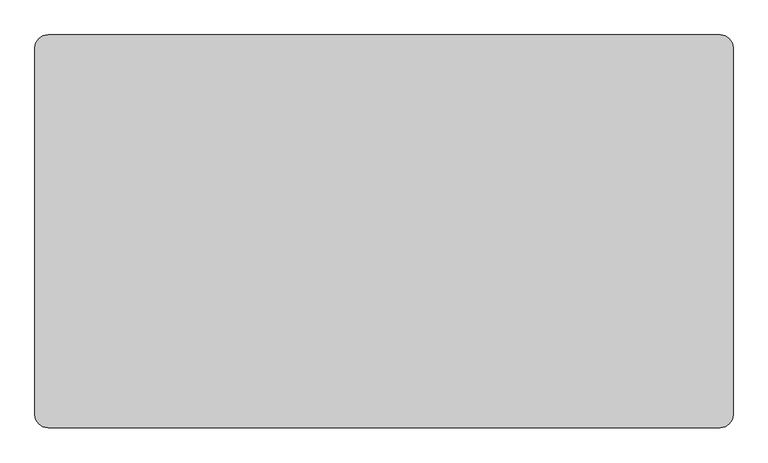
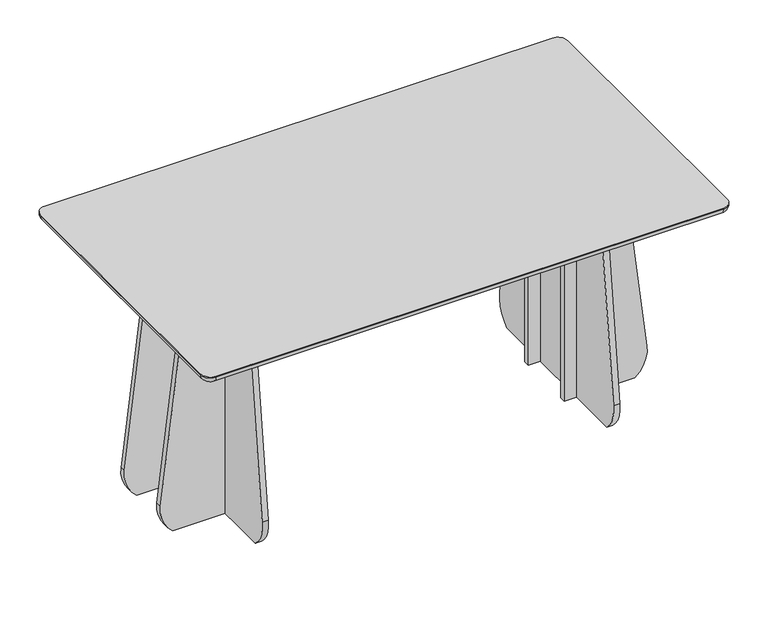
"""IFC4 building model written with IfcOpenShell, lengths in millimetres: furniture geometry, Lundbergs Möbler - Funghi Largo - Table - Rectangular - 160x90 - H73 : Lundbergs Möbler - Funghi Largo - Table - Rectangular - 160x90 - H73."""

from ifc_helpers import new_model, si_unit, point, frame, frame_2d, origin, place, context, project, spatial, polyline, circle_curve, ellipse_curve, trimmed, segment, composite_curve, outline, extrude, source, transform, mapped, element, save
from ifc_brep_helpers import plane_surface, cylinder_surface, revolved_surface, advanced_brep


def furniture_014bb074(model_context):
    return source(origin(), model_context, "Body", "SolidModel", [
        advanced_brep(
        [(-780.0, 420.0, 706.0), (-800.0, 420.0, 726.0), (-770.0, 450.0, 726.0), (-770.0, 430.0, 706.0), (-780.0, -420.0, 706.0), (-800.0, -420.0, 726.0), (-770.0, -430.0, 706.0), (-770.0, -450.0, 726.0), (770.0, -430.0, 706.0), (770.0, -450.0, 726.0), (780.0, -420.0, 706.0), (800.0, -420.0, 726.0), (780.0, 420.0, 706.0), (800.0, 420.0, 726.0), (770.0, 430.0, 706.0), (770.0, 450.0, 726.0), (770.0, 450.0, 730.0), (-770.0, 450.0, 730.0), (-800.0, 420.0, 730.0), (-800.0, -420.0, 730.0), (-770.0, -450.0, 730.0), (770.0, -450.0, 730.0), (800.0, -420.0, 730.0), (800.0, 420.0, 730.0)],
        [
            (0, 1, circle_curve(frame((-780.0, 420.0, 726.0), z_axis=(0.0, 1.0, 0.0), x_axis=(1.0, 0.0, 0.0)), 20.0)),
            (1, 2, circle_curve(frame((-770.0, 420.0, 726.0), z_axis=(0.0, 0.0, -1.0), x_axis=(0.0, 1.0, 0.0)), 30.0)),
            (2, 3, circle_curve(frame((-770.0, 430.0, 726.0), z_axis=(-1.0, 0.0, 0.0), x_axis=(0.0, -1.0, 0.0)), 20.0)),
            (3, 0, circle_curve(frame((-770.0, 420.0, 706.0), z_axis=(0.0, 0.0, 1.0), x_axis=(0.0, 1.0, 0.0)), 10.0)),
            (0, 4),
            (4, 5, circle_curve(frame((-780.0, -420.0, 726.0), z_axis=(0.0, 1.0, 0.0), x_axis=(1.0, 0.0, 0.0)), 20.0)),
            (5, 1),
            (4, 6, circle_curve(frame((-770.0, -420.0, 706.0), z_axis=(0.0, 0.0, 1.0), x_axis=(-1.0, 0.0, 0.0)), 10.0)),
            (6, 7, circle_curve(frame((-770.0, -430.0, 726.0), z_axis=(-1.0, 0.0, 0.0), x_axis=(0.0, 1.0, 0.0)), 20.0)),
            (7, 5, circle_curve(frame((-770.0, -420.0, 726.0), z_axis=(0.0, 0.0, -1.0), x_axis=(-1.0, 0.0, 0.0)), 30.0)),
            (6, 8),
            (8, 9, circle_curve(frame((770.0, -430.0, 726.0), z_axis=(-1.0, 0.0, 0.0), x_axis=(0.0, 1.0, 0.0)), 20.0)),
            (9, 7),
            (8, 10, circle_curve(frame((770.0, -420.0, 706.0), z_axis=(0.0, 0.0, 1.0), x_axis=(0.0, -1.0, 0.0)), 10.0)),
            (10, 11, circle_curve(frame((780.0, -420.0, 726.0), z_axis=(0.0, -1.0, 0.0), x_axis=(-1.0, 0.0, 0.0)), 20.0)),
            (11, 9, circle_curve(frame((770.0, -420.0, 726.0), z_axis=(0.0, 0.0, -1.0), x_axis=(0.0, -1.0, 0.0)), 30.0)),
            (10, 12),
            (12, 13, circle_curve(frame((780.0, 420.0, 726.0), z_axis=(0.0, -1.0, 0.0), x_axis=(-1.0, 0.0, 0.0)), 20.0)),
            (13, 11),
            (12, 14, circle_curve(frame((770.0, 420.0, 706.0), z_axis=(0.0, 0.0, 1.0), x_axis=(1.0, 0.0, 0.0)), 10.0)),
            (14, 15, circle_curve(frame((770.0, 430.0, 726.0), z_axis=(1.0, 0.0, 0.0), x_axis=(0.0, -1.0, 0.0)), 20.0)),
            (15, 13, circle_curve(frame((770.0, 420.0, 726.0), z_axis=(0.0, 0.0, -1.0), x_axis=(1.0, 0.0, 0.0)), 30.0)),
            (2, 15),
            (14, 3),
            (16, 17),
            (17, 18, circle_curve(frame((-770.0, 420.0, 730.0), z_axis=(0.0, 0.0, 1.0), x_axis=(0.0, 1.0, 0.0)), 30.0)),
            (18, 19),
            (19, 20, circle_curve(frame((-770.0, -420.0, 730.0), z_axis=(0.0, 0.0, 1.0), x_axis=(0.0, 1.0, 0.0)), 30.0)),
            (20, 21),
            (21, 22, circle_curve(frame((770.0, -420.0, 730.0), z_axis=(0.0, 0.0, 1.0), x_axis=(0.0, 1.0, 0.0)), 30.0)),
            (22, 23),
            (23, 16, circle_curve(frame((770.0, 420.0, 730.0), z_axis=(0.0, 0.0, 1.0), x_axis=(0.0, 1.0, 0.0)), 30.0)),
            (16, 15),
            (2, 17),
            (1, 18),
            (5, 19),
            (7, 20),
            (9, 21),
            (11, 22),
            (13, 23),
        ],
        [
            revolved_surface(trimmed(ellipse_curve(frame((-770.0, 430.0, 726.0), z_axis=(1.0, 0.0, 0.0), x_axis=(0.0, -1.0, 0.0)), 20.0, 20.0), [point((-770.0, 430.0, 706.0))], [point((-770.0, 450.0, 726.0))], True, "CARTESIAN"), (-770.0, 420.0, 0.0), (0.0, 0.0, 1.0)),
            cylinder_surface(frame((-780.0, 420.0, 726.0), z_axis=(0.0, -1.0, 0.0), x_axis=(1.0, 0.0, 0.0)), 20.0),
            revolved_surface(trimmed(ellipse_curve(frame((-780.0, -420.0, 726.0), z_axis=(0.0, 1.0, 0.0), x_axis=(1.0, 0.0, 0.0)), 20.0, 20.0), [point((-780.0, -420.0, 706.0))], [point((-800.0, -420.0, 726.0))], True, "CARTESIAN"), (-770.0, -420.0, 0.0), (0.0, 0.0, 1.0)),
            cylinder_surface(frame((-770.0, -430.0, 726.0), z_axis=(1.0, 0.0, 0.0), x_axis=(0.0, 1.0, 0.0)), 20.0),
            revolved_surface(trimmed(ellipse_curve(frame((770.0, -430.0, 726.0), z_axis=(-1.0, 0.0, 0.0), x_axis=(0.0, 1.0, 0.0)), 20.0, 20.0), [point((770.0, -430.0, 706.0))], [point((770.0, -450.0, 726.0))], True, "CARTESIAN"), (770.0, -420.0, 0.0), (0.0, 0.0, 1.0)),
            cylinder_surface(frame((780.0, -420.0, 726.0), z_axis=(0.0, 1.0, 0.0), x_axis=(-1.0, 0.0, 0.0)), 20.0),
            revolved_surface(trimmed(ellipse_curve(frame((780.0, 420.0, 726.0), z_axis=(0.0, -1.0, 0.0), x_axis=(-1.0, 0.0, 0.0)), 20.0, 20.0), [point((780.0, 420.0, 706.0))], [point((800.0, 420.0, 726.0))], True, "CARTESIAN"), (770.0, 420.0, 0.0), (0.0, 0.0, 1.0)),
            cylinder_surface(frame((770.0, 430.0, 726.0), z_axis=(-1.0, 0.0, 0.0), x_axis=(0.0, -1.0, 0.0)), 20.0),
            plane_surface(frame((-770.0, 450.0, 730.0), z_axis=(0.0, 0.0, 1.0), x_axis=(-1.0, 0.0, 0.0))),
            plane_surface(frame((-770.0, 450.0, 706.0), z_axis=(0.0, 0.0, -1.0), x_axis=(1.0, 0.0, 0.0))),
            plane_surface(frame((770.0, 450.0, 730.0), z_axis=(0.0, 1.0, 0.0), x_axis=(0.0, 0.0, -1.0))),
            cylinder_surface(frame((-770.0, 420.0, 706.0), z_axis=(0.0, 0.0, 1.0), x_axis=(0.0, 1.0, 0.0)), 30.0),
            plane_surface(frame((-800.0, 420.0, 730.0), z_axis=(-1.0, 0.0, 0.0), x_axis=(0.0, 0.0, -1.0))),
            cylinder_surface(frame((-770.0, -420.0, 706.0), z_axis=(0.0, 0.0, 1.0), x_axis=(0.0, 1.0, 0.0)), 30.0),
            plane_surface(frame((-770.0, -450.0, 730.0), z_axis=(0.0, -1.0, 0.0), x_axis=(0.0, 0.0, -1.0))),
            cylinder_surface(frame((770.0, -420.0, 706.0), z_axis=(0.0, 0.0, 1.0), x_axis=(0.0, 1.0, 0.0)), 30.0),
            plane_surface(frame((800.0, -420.0, 730.0), z_axis=(1.0, 0.0, 0.0), x_axis=(0.0, 0.0, -1.0))),
            cylinder_surface(frame((770.0, 420.0, 706.0), z_axis=(0.0, 0.0, 1.0), x_axis=(0.0, 1.0, 0.0)), 30.0),
        ],
        [
            (0, [[1, 2, 3, 4]]),
            (1, [[-1, 5, 6, 7]]),
            (2, [[-6, 8, 9, 10]]),
            (3, [[-9, 11, 12, 13]]),
            (4, [[-12, 14, 15, 16]]),
            (5, [[-15, 17, 18, 19]]),
            (6, [[-18, 20, 21, 22]]),
            (7, [[-3, 23, -21, 24]]),
            (8, [[25, 26, 27, 28, 29, 30, 31, 32]]),
            (9, [[-4, -24, -20, -17, -14, -11, -8, -5]]),
            (10, [[-25, 33, -23, 34]]),
            (11, [[-26, -34, -2, 35]]),
            (12, [[-27, -35, -7, 36]]),
            (13, [[-28, -36, -10, 37]]),
            (14, [[-29, -37, -13, 38]]),
            (15, [[-30, -38, -16, 39]]),
            (16, [[-31, -39, -19, 40]]),
            (17, [[-32, -40, -22, -33]]),
        ],
    ),
        extrude(outline(composite_curve([segment(polyline([(581.25, 180.0), (617.25, 180.0)]), True, "CONTINUOUS"), segment(trimmed(circle_curve(frame_2d((617.25, 178.0)), 2.0), [point((617.25, 180.0))], [point((619.25, 178.0))], False, "CARTESIAN"), True, "CONTINUOUS"), segment(polyline([(619.25, 178.0), (619.25, -178.0)]), True, "CONTINUOUS"), segment(trimmed(circle_curve(frame_2d((617.25, -178.0)), 2.0), [point((619.25, -178.0))], [point((617.25, -180.0))], False, "CARTESIAN"), True, "CONTINUOUS"), segment(polyline([(617.25, -180.0), (581.25, -180.0)]), True, "CONTINUOUS"), segment(trimmed(circle_curve(frame_2d((581.25, -178.0)), 2.0), [point((581.25, -180.0))], [point((579.25, -178.0))], False, "CARTESIAN"), True, "CONTINUOUS"), segment(polyline([(579.25, -178.0), (579.25, 178.0)]), True, "CONTINUOUS"), segment(trimmed(circle_curve(frame_2d((581.25, 178.0)), 2.0), [point((579.25, 178.0))], [point((581.25, 180.0))], False, "CARTESIAN"), True, "CONTINUOUS")], self_intersect=False)), frame((0.0, 0.0, 686.0), z_axis=(0.0, 0.0, 1.0), x_axis=(1.0, 0.0, 0.0)), (0.0, 0.0, 1.0), 20.0),
        extrude(outline(composite_curve([segment(polyline([(461.25, 180.0), (551.25, 180.0)]), True, "CONTINUOUS"), segment(trimmed(circle_curve(frame_2d((551.25, 176.5)), 3.5), [point((551.25, 180.0))], [point((554.75, 176.5))], False, "CARTESIAN"), True, "CONTINUOUS"), segment(polyline([(554.75, 176.5), (554.75, 143.5)]), True, "CONTINUOUS"), segment(trimmed(circle_curve(frame_2d((551.25, 143.5)), 3.5), [point((554.75, 143.5))], [point((551.25, 140.0))], False, "CARTESIAN"), True, "CONTINUOUS"), segment(polyline([(551.25, 140.0), (461.25, 140.0)]), True, "CONTINUOUS"), segment(trimmed(circle_curve(frame_2d((461.25, 143.5)), 3.5), [point((461.25, 140.0))], [point((457.75, 143.5))], False, "CARTESIAN"), True, "CONTINUOUS"), segment(polyline([(457.75, 143.5), (457.75, 176.5)]), True, "CONTINUOUS"), segment(trimmed(circle_curve(frame_2d((461.25, 176.5)), 3.5), [point((457.75, 176.5))], [point((461.25, 180.0))], False, "CARTESIAN"), True, "CONTINUOUS")], self_intersect=False)), frame((0.0, 0.0, 686.0), z_axis=(0.0, 0.0, 1.0), x_axis=(1.0, 0.0, 0.0)), (0.0, 0.0, 1.0), 20.0),
        extrude(outline(composite_curve([segment(polyline([(461.25, -140.0), (551.25, -140.0)]), True, "CONTINUOUS"), segment(trimmed(circle_curve(frame_2d((551.25, -143.5)), 3.5), [point((551.25, -140.0))], [point((554.75, -143.5))], False, "CARTESIAN"), True, "CONTINUOUS"), segment(polyline([(554.75, -143.5), (554.75, -176.5)]), True, "CONTINUOUS"), segment(trimmed(circle_curve(frame_2d((551.25, -176.5)), 3.5), [point((554.75, -176.5))], [point((551.25, -180.0))], False, "CARTESIAN"), True, "CONTINUOUS"), segment(polyline([(551.25, -180.0), (461.25, -180.0)]), True, "CONTINUOUS"), segment(trimmed(circle_curve(frame_2d((461.25, -176.5)), 3.5), [point((461.25, -180.0))], [point((457.75, -176.5))], False, "CARTESIAN"), True, "CONTINUOUS"), segment(polyline([(457.75, -176.5), (457.75, -143.5)]), True, "CONTINUOUS"), segment(trimmed(circle_curve(frame_2d((461.25, -143.5)), 3.5), [point((457.75, -143.5))], [point((461.25, -140.0))], False, "CARTESIAN"), True, "CONTINUOUS")], self_intersect=False)), frame((0.0, 0.0, 686.0), z_axis=(0.0, 0.0, 1.0), x_axis=(1.0, 0.0, 0.0)), (0.0, 0.0, 1.0), 20.0),
        extrude(outline(composite_curve([segment(trimmed(circle_curve(frame_2d((200.0, 78.0350603)), 100.0), [point((299.2807726, 90.0070355))], [point((262.5342255, 0.0))], False, "CARTESIAN"), True, "CONTINUOUS"), segment(polyline([(262.5342255, 0.0), (-262.5342255, 0.0)]), True, "CONTINUOUS"), segment(trimmed(circle_curve(frame_2d((-200.0, 78.0350603)), 100.0), [point((-262.5342255, 0.0))], [point((-299.2807726, 90.0070355))], False, "CARTESIAN"), True, "CONTINUOUS"), segment(polyline([(-299.2807726, 90.0070355), (-224.9955121, 706.0372169), (224.9955121, 706.0372169), (299.2807726, 90.0070355)]), True, "CONTINUOUS")], self_intersect=False)), frame((524.25, 0.0, 0.0), z_axis=(1.0, 0.0, 0.0), x_axis=(0.0, 1.0, 0.0)), (0.0, 0.0, 1.0), 18.5),
        extrude(outline(composite_curve([segment(polyline([(90.0070355, 738.5307726), (706.0372169, 664.2455121), (706.0372169, 487.25), (0.0, 487.25), (0.0, 701.7842255)]), True, "CONTINUOUS"), segment(trimmed(circle_curve(frame_2d((78.0350603, 639.25)), 100.0), [point((0.0, 701.7842255))], [point((90.0070355, 738.5307726))], False, "CARTESIAN"), True, "CONTINUOUS")], self_intersect=False)), frame((0.0, 85.5, 0.0), z_axis=(0.0, 1.0, 0.0), x_axis=(0.0, 0.0, 1.0)), (0.0, 0.0, 1.0), 18.0),
        extrude(outline(composite_curve([segment(polyline([(90.0070355, 738.5307726), (706.0372169, 664.2455121), (706.0372169, 487.25), (0.0, 487.25), (0.0, 701.7842255)]), True, "CONTINUOUS"), segment(trimmed(circle_curve(frame_2d((78.0350603, 639.25)), 100.0), [point((0.0, 701.7842255))], [point((90.0070355, 738.5307726))], False, "CARTESIAN"), True, "CONTINUOUS")], self_intersect=False)), frame((0.0, -103.5, 0.0), z_axis=(0.0, 1.0, 0.0), x_axis=(0.0, 0.0, 1.0)), (0.0, 0.0, 1.0), 18.0),
        extrude(outline(composite_curve([segment(trimmed(circle_curve(frame_2d((-581.25, 178.0)), 2.0), [point((-581.25, 180.0))], [point((-579.25, 178.0))], False, "CARTESIAN"), True, "CONTINUOUS"), segment(polyline([(-579.25, 178.0), (-579.25, -178.0)]), True, "CONTINUOUS"), segment(trimmed(circle_curve(frame_2d((-581.25, -178.0)), 2.0), [point((-579.25, -178.0))], [point((-581.25, -180.0))], False, "CARTESIAN"), True, "CONTINUOUS"), segment(polyline([(-581.25, -180.0), (-617.25, -180.0)]), True, "CONTINUOUS"), segment(trimmed(circle_curve(frame_2d((-617.25, -178.0)), 2.0), [point((-617.25, -180.0))], [point((-619.25, -178.0))], False, "CARTESIAN"), True, "CONTINUOUS"), segment(polyline([(-619.25, -178.0), (-619.25, 178.0)]), True, "CONTINUOUS"), segment(trimmed(circle_curve(frame_2d((-617.25, 178.0)), 2.0), [point((-619.25, 178.0))], [point((-617.25, 180.0))], False, "CARTESIAN"), True, "CONTINUOUS"), segment(polyline([(-617.25, 180.0), (-581.25, 180.0)]), True, "CONTINUOUS")], self_intersect=False)), frame((0.0, 0.0, 686.0), z_axis=(0.0, 0.0, 1.0), x_axis=(1.0, 0.0, 0.0)), (0.0, 0.0, 1.0), 20.0),
        extrude(outline(composite_curve([segment(trimmed(circle_curve(frame_2d((-461.25, 176.5)), 3.5), [point((-461.25, 180.0))], [point((-457.75, 176.5))], False, "CARTESIAN"), True, "CONTINUOUS"), segment(polyline([(-457.75, 176.5), (-457.75, 143.5)]), True, "CONTINUOUS"), segment(trimmed(circle_curve(frame_2d((-461.25, 143.5)), 3.5), [point((-457.75, 143.5))], [point((-461.25, 140.0))], False, "CARTESIAN"), True, "CONTINUOUS"), segment(polyline([(-461.25, 140.0), (-551.25, 140.0)]), True, "CONTINUOUS"), segment(trimmed(circle_curve(frame_2d((-551.25, 143.5)), 3.5), [point((-551.25, 140.0))], [point((-554.75, 143.5))], False, "CARTESIAN"), True, "CONTINUOUS"), segment(polyline([(-554.75, 143.5), (-554.75, 176.5)]), True, "CONTINUOUS"), segment(trimmed(circle_curve(frame_2d((-551.25, 176.5)), 3.5), [point((-554.75, 176.5))], [point((-551.25, 180.0))], False, "CARTESIAN"), True, "CONTINUOUS"), segment(polyline([(-551.25, 180.0), (-461.25, 180.0)]), True, "CONTINUOUS")], self_intersect=False)), frame((0.0, 0.0, 686.0), z_axis=(0.0, 0.0, 1.0), x_axis=(1.0, 0.0, 0.0)), (0.0, 0.0, 1.0), 20.0),
        extrude(outline(composite_curve([segment(trimmed(circle_curve(frame_2d((-461.25, -143.5)), 3.5), [point((-461.25, -140.0))], [point((-457.75, -143.5))], False, "CARTESIAN"), True, "CONTINUOUS"), segment(polyline([(-457.75, -143.5), (-457.75, -176.5)]), True, "CONTINUOUS"), segment(trimmed(circle_curve(frame_2d((-461.25, -176.5)), 3.5), [point((-457.75, -176.5))], [point((-461.25, -180.0))], False, "CARTESIAN"), True, "CONTINUOUS"), segment(polyline([(-461.25, -180.0), (-551.25, -180.0)]), True, "CONTINUOUS"), segment(trimmed(circle_curve(frame_2d((-551.25, -176.5)), 3.5), [point((-551.25, -180.0))], [point((-554.75, -176.5))], False, "CARTESIAN"), True, "CONTINUOUS"), segment(polyline([(-554.75, -176.5), (-554.75, -143.5)]), True, "CONTINUOUS"), segment(trimmed(circle_curve(frame_2d((-551.25, -143.5)), 3.5), [point((-554.75, -143.5))], [point((-551.25, -140.0))], False, "CARTESIAN"), True, "CONTINUOUS"), segment(polyline([(-551.25, -140.0), (-461.25, -140.0)]), True, "CONTINUOUS")], self_intersect=False)), frame((0.0, 0.0, 686.0), z_axis=(0.0, 0.0, 1.0), x_axis=(1.0, 0.0, 0.0)), (0.0, 0.0, 1.0), 20.0),
        extrude(outline(composite_curve([segment(trimmed(circle_curve(frame_2d((200.0, 78.0350603)), 100.0), [point((299.2807726, 90.0070355))], [point((262.5342255, 0.0))], False, "CARTESIAN"), True, "CONTINUOUS"), segment(polyline([(262.5342255, 0.0), (-262.5342255, 0.0)]), True, "CONTINUOUS"), segment(trimmed(circle_curve(frame_2d((-200.0, 78.0350603)), 100.0), [point((-262.5342255, 0.0))], [point((-299.2807726, 90.0070355))], False, "CARTESIAN"), True, "CONTINUOUS"), segment(polyline([(-299.2807726, 90.0070355), (-224.9955121, 706.0372169), (224.9955121, 706.0372169), (299.2807726, 90.0070355)]), True, "CONTINUOUS")], self_intersect=False)), frame((-542.75, 0.0, 0.0), z_axis=(1.0, 0.0, 0.0), x_axis=(0.0, 1.0, 0.0)), (0.0, 0.0, 1.0), 18.5),
        extrude(outline(composite_curve([segment(trimmed(circle_curve(frame_2d((78.0350603, -639.25)), 100.0), [point((90.0070355, -738.5307726))], [point((0.0, -701.7842255))], False, "CARTESIAN"), True, "CONTINUOUS"), segment(polyline([(0.0, -701.7842255), (0.0, -487.25), (706.0372169, -487.25), (706.0372169, -664.2455121), (90.0070355, -738.5307726)]), True, "CONTINUOUS")], self_intersect=False)), frame((0.0, 85.5, 0.0), z_axis=(0.0, 1.0, 0.0), x_axis=(0.0, 0.0, 1.0)), (0.0, 0.0, 1.0), 18.0),
        extrude(outline(composite_curve([segment(trimmed(circle_curve(frame_2d((78.0350603, -639.25)), 100.0), [point((90.0070355, -738.5307726))], [point((0.0, -701.7842255))], False, "CARTESIAN"), True, "CONTINUOUS"), segment(polyline([(0.0, -701.7842255), (0.0, -487.25), (706.0372169, -487.25), (706.0372169, -664.2455121), (90.0070355, -738.5307726)]), True, "CONTINUOUS")], self_intersect=False)), frame((0.0, -103.5, 0.0), z_axis=(0.0, 1.0, 0.0), x_axis=(0.0, 0.0, 1.0)), (0.0, 0.0, 1.0), 18.0),
    ])


if __name__ == "__main__":
    model = new_model("IFC4")
    model_context = context("Model", 3, world=origin())
    ifc_project = project(units=[si_unit("LENGTHUNIT", "METRE", prefix="MILLI")], contexts=[model_context])
    site = spatial("IfcSite", under=ifc_project)
    building = spatial("IfcBuilding", under=site)
    placement = place(None, origin())
    furniture_shape = furniture_014bb074(model_context)
    element("IfcFurniture", 1, ObjectType="Lundbergs Möbler - Funghi Largo - Table - Rectangular - 160x90 - H73 : Lundbergs Möbler - Funghi Largo - Table - Rectangular - 160x90 - H73", at=placement, inside=building, context=model_context, shape_type="MappedRepresentation", body=[
        mapped(furniture_shape, transform((0.0, 0.0, 0.0), x_axis=(1.0, 0.0, 0.0), y_axis=(0.0, 1.0, 0.0), z_axis=(0.0, 0.0, 1.0))),
    ])
    save(model, "model.ifc")
